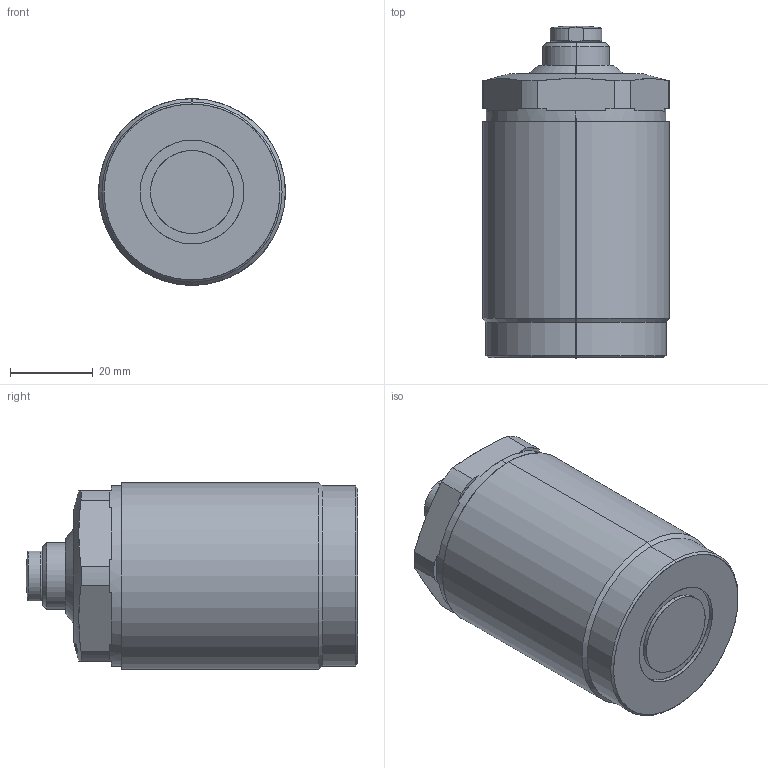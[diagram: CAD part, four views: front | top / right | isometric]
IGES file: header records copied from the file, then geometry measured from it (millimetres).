
Start section: SolidWorks IGES file using analytic representation for surfaces
Global section: file name: D:\karuppas\Clasp\3D model\Work support\Work support TW09-M453\TW09-M453 Work support.IGS; native system: SolidWorks 2017; preprocessor: SolidWorks 2017; author: pc; date: 220709.224611; units: millimetre
Bounding box: 45 x 80 x 45 mm (x, y, z)
Surface area: 16647 mm2 (no closed solid volume)
Topology: 0 solids, 0 shells, 266 faces, 3464 edges, 3460 vertices
Faces by surface type: bspline 213, revolution 53
